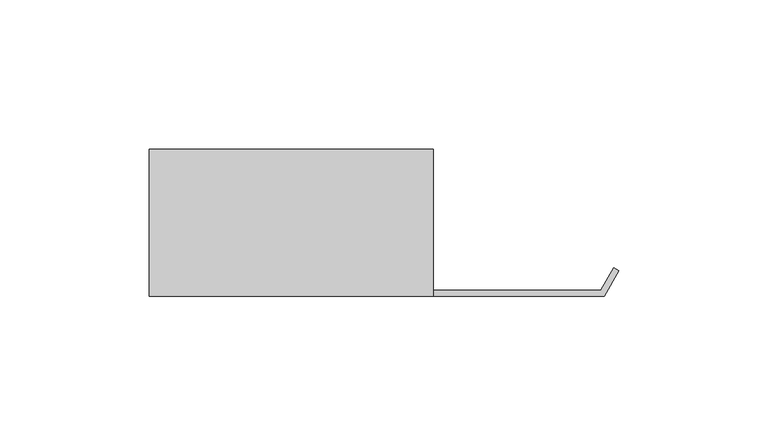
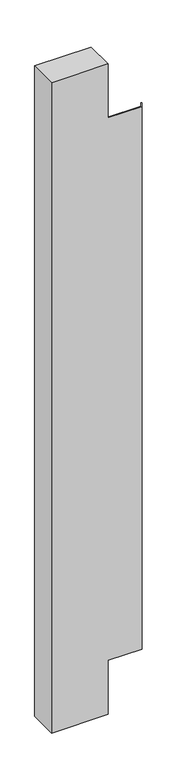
"""IFC4 building model written with IfcOpenShell, lengths in millimetres: proxy geometry, AERO^OFFICE 4_25x78 HAT BRIDGE-WIRE TROUGH."""

from ifc_helpers import new_model, si_unit, origin, place, context, project, spatial, faceted_brep, source, transform, mapped, element, save


def generic_models_0208513f(model_context):
    return source(origin(), model_context, "Body", "Brep", [
        faceted_brep([(1.89738, 49.2125, -96.123125), (1.89738, 49.2125, 1061.323125), (1.89738, 0.0, 1061.323125), (1.89738, 0.0, 965.2), (1.89738, 1.89738, 965.2), (1.89738, 1.89738, 0.0), (1.89738, 0.0, 0.0), (1.89738, 0.0, -96.123125), (-93.35262, 0.0, -96.123125), (-93.35262, 0.0, 1061.323125), (-93.35262, 49.2125, 1061.323125), (-93.35262, 49.2125, -96.123125), (57.9519271, 1.89738, 0.0), (57.9519271, 1.89738, 965.2), (62.3557356, 9.525, 0.0), (62.3557356, 9.525, 965.2), (63.9989149, 8.57631, 0.0), (63.9989149, 8.57631, 965.2), (59.04738, 0.0, 0.0), (59.04738, 0.0, 965.2)], [[[0, 1, 2, 3, 4, 5, 6, 7]], [[8, 9, 10, 11]], [[11, 0, 7, 8]], [[9, 2, 1, 10]], [[12, 5, 4, 13]], [[14, 12, 13, 15]], [[16, 14, 15, 17]], [[18, 16, 17, 19]], [[9, 8, 7, 6, 18, 19, 3, 2]], [[11, 10, 1, 0]], [[4, 3, 19, 17, 15, 13]], [[6, 5, 12, 14, 16, 18]]]),
    ])


if __name__ == "__main__":
    model = new_model("IFC4")
    model_context = context("Model", 3, world=origin())
    ifc_project = project(units=[si_unit("LENGTHUNIT", "METRE", prefix="MILLI")], contexts=[model_context])
    site = spatial("IfcSite", under=ifc_project)
    building = spatial("IfcBuilding", under=site)
    placement = place(None, origin())
    generic_models_shape = generic_models_0208513f(model_context)
    element("IfcBuildingElementProxy", 1, Name="AERO^OFFICE 4_25x78 HAT BRIDGE-WIRE TROUGH", ObjectType="AERO^OFFICE 4_25x78 HAT BRIDGE-WIRE TROUGH", at=placement, inside=building, context=model_context, shape_type="MappedRepresentation", body=[
        mapped(generic_models_shape, transform((0.0, 0.0, 0.0), x_axis=(1.0, 0.0, 0.0), y_axis=(0.0, 1.0, 0.0), z_axis=(0.0, 0.0, 1.0))),
    ])
    save(model, "model.ifc")
